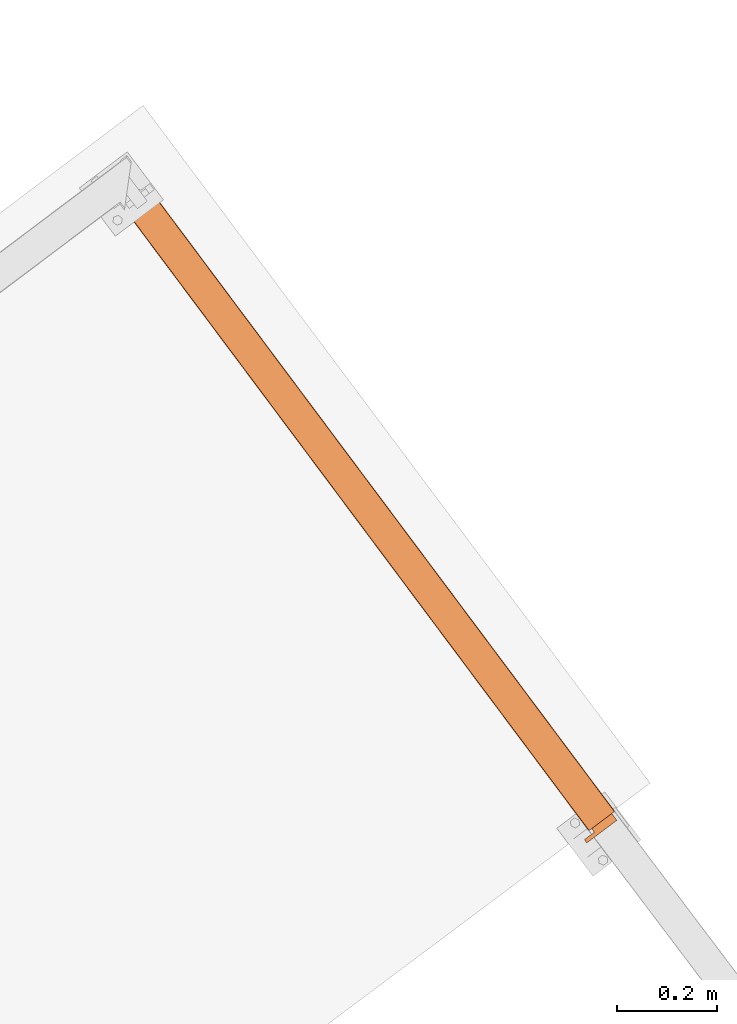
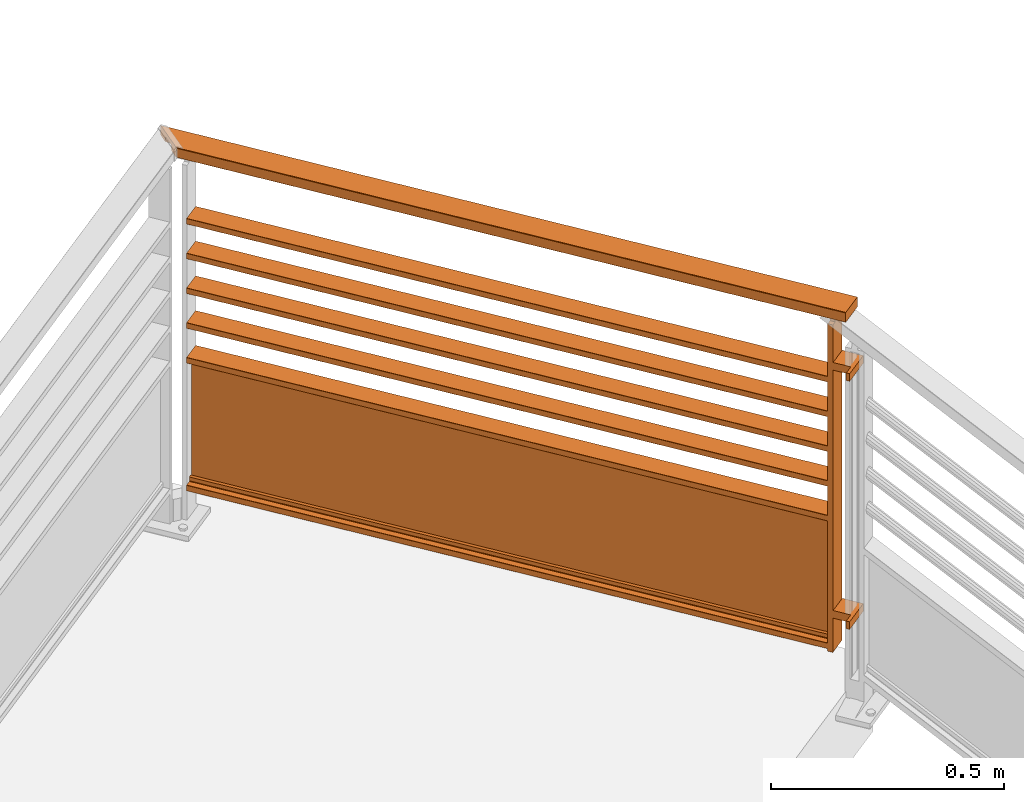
# One storey, part 120 of 121: 1 proxy.
"""IFC2X3 building model written with IfcOpenShell, lengths in metres."""

from ifc_helpers import new_model, entity, si_unit, converted_unit, derived_unit, money_unit, direction, frame, origin_with_axes, place, context, subcontext, project, spatial, faceted_brep, type_object, element, save


model = new_model("IFC2X3")

# Units and contexts
model_context = context("Model", 3, precision=1e-05, world=origin_with_axes(), true_north=direction((0.0, 1.0)))
body_context = subcontext(model_context, "Body", "Model", "MODEL_VIEW")
ifc_project = project(units=[si_unit("LENGTHUNIT", "METRE"), si_unit("AREAUNIT", "SQUARE_METRE"), si_unit("VOLUMEUNIT", "CUBIC_METRE"), converted_unit("PLANEANGLEUNIT", "DEGREE", entity("IfcPlaneAngleMeasure", 0.0174532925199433), si_unit("PLANEANGLEUNIT", "RADIAN"), dimensions=[0, 0, 0, 0, 0, 0, 0]), money_unit("CHF"), converted_unit("TIMEUNIT", "Year", entity("IfcTimeMeasure", 31557600.0), si_unit("TIMEUNIT", "SECOND"), dimensions=[0, 0, 1, 0, 0, 0, 0]), si_unit("MASSUNIT", "GRAM", prefix="KILO"), si_unit("THERMODYNAMICTEMPERATUREUNIT", "DEGREE_CELSIUS"), si_unit("LUMINOUSINTENSITYUNIT", "LUMEN"), si_unit("ENERGYUNIT", "JOULE", prefix="MEGA"), derived_unit("THERMALCONDUCTANCEUNIT", [(si_unit("POWERUNIT", "WATT"), 1), (si_unit("LENGTHUNIT", "METRE"), -1), (si_unit("THERMODYNAMICTEMPERATUREUNIT", "KELVIN"), -1)]), derived_unit("SPECIFICHEATCAPACITYUNIT", [(si_unit("ENERGYUNIT", "JOULE"), 1), (si_unit("MASSUNIT", "GRAM", prefix="KILO"), -1), (si_unit("THERMODYNAMICTEMPERATUREUNIT", "KELVIN"), -1)]), derived_unit("MASSDENSITYUNIT", [(si_unit("MASSUNIT", "GRAM", prefix="KILO"), 1), (si_unit("VOLUMEUNIT", "CUBIC_METRE"), -1)])], contexts=[model_context])

# Site, building, storey
site_placement = place(None, origin_with_axes())
site = spatial("IfcSite", under=ifc_project, at=site_placement, Name="Site", CompositionType="ELEMENT")
building_placement = place(site_placement, origin_with_axes())
building = spatial("IfcBuilding", under=site, at=building_placement, Name="Bâtiment", CompositionType="ELEMENT")
storey_placement = place(building_placement, frame((0.0, 0.0, 2.75), z_axis=(0.0, 0.0, 1.0), x_axis=(1.0, 0.0, 0.0)))
storey = spatial("IfcBuildingStorey", under=building, at=storey_placement, Name="Etage 1", CompositionType="ELEMENT", Elevation=2.75)

# Proxy
building_element_proxy_type = type_object("IfcBuildingElementProxyType", PredefinedType="NOTDEFINED")
proxy_placement = place(storey_placement, frame((9544.258487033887, -1073.205003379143, 57.7), z_axis=(0.0, 0.0, 1.0), x_axis=(0.5985049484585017, -0.8011191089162, 0.0)))
element("IfcBuildingElementProxy", 1, at=proxy_placement, inside=storey, type_object=building_element_proxy_type, Name="Obj.-003", context=body_context, shape_type="Brep", body=[
    faceted_brep([(-0.02000000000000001, -0.0635, 0.9731), (-0.02000000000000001, -0.0625, 0.9741), (-0.01700000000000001, -0.0625, 0.9741), (-0.01700000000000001, -0.0635, 0.9731), (-0.02, -0.1265, 0.9731), (-0.02, -0.1275, 0.9741), (-0.02000000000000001, -0.1275, 0.998105), (-0.02000000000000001, -0.126563, 0.999103), (-0.02000000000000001, -0.063437, 0.999103), (-0.02000000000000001, -0.0625, 0.998105), (-0.01700000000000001, -0.0625, 0.998105), (-0.01700000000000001, -0.063437, 0.999103), (-0.01700000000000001, -0.126563, 0.999103), (-0.01700000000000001, -0.1275, 0.998105), (-0.017, -0.1275, 0.9741), (-0.017, -0.1265, 0.9731)], [[[0, 1, 2, 3]], [[0, 4, 5, 6, 7, 8, 9, 1]], [[1, 9, 10, 2]], [[3, 2, 10, 11, 12, 13, 14, 15]], [[4, 0, 3, 15]], [[5, 4, 15, 14]], [[6, 5, 14, 13]], [[7, 6, 13, 12]], [[8, 7, 12, 11]], [[9, 8, 11, 10]]]),
    faceted_brep([(-0.02000000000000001, -0.0625, 0.998105), (-1.646753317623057, -0.0625000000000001, 0.9981049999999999), (-1.64581644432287, -0.06343687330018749, 0.9991030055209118), (-0.02000000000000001, -0.0634368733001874, 0.9991030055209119), (-0.02000000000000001, -0.0625, 0.9741), (-1.646753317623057, -0.0625000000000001, 0.9740999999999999), (-1.645753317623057, -0.0635000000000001, 0.9730999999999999), (-1.627253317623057, -0.0820000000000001, 0.9730999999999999), (-1.627253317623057, -0.0820000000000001, 0.9876999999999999), (-1.601253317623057, -0.1080000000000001, 0.9876999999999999), (-1.601253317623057, -0.1080000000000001, 0.9730999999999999), (-1.582753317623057, -0.1265000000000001, 0.9730999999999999), (-1.581753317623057, -0.1275000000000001, 0.9740999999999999), (-1.581753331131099, -0.1274999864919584, 0.9981051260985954), (-1.582690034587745, -0.1265632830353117, 0.9991029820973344), (-0.02000000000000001, -0.1265632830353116, 0.9991029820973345), (-0.02000000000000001, -0.1274999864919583, 0.9981051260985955), (-0.02, -0.1275, 0.9741), (-0.02, -0.1265, 0.9731), (-0.02000000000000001, -0.108, 0.9731), (-0.02000000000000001, -0.108, 0.9876999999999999), (-0.02000000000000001, -0.082, 0.9876999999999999), (-0.02000000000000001, -0.082, 0.9731), (-0.02000000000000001, -0.0635, 0.9731)], [[[0, 1, 2, 3]], [[4, 5, 1, 0]], [[1, 5, 6, 7, 8, 9, 10, 11, 12, 13, 14, 2]], [[3, 2, 14, 15]], [[0, 3, 15, 16, 17, 18, 19, 20, 21, 22, 23, 4]], [[23, 6, 5, 4]], [[22, 7, 6, 23]], [[21, 8, 7, 22]], [[20, 9, 8, 21]], [[19, 10, 9, 20]], [[18, 11, 10, 19]], [[17, 12, 11, 18]], [[16, 13, 12, 17]], [[15, 14, 13, 16]]]),
    faceted_brep([(-0.008000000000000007, -0.12, 0.184), (-0.008000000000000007, -0.12, 0.204), (-0.04950000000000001, -0.12, 0.204), (-0.04950000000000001, -0.12, 0.184), (-0.008000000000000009, -0.145, 0.184), (-0.008000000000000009, -0.145, 0.204), (0.0, -0.145, 0.204), (0.0, -0.07, 0.204), (-0.04950000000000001, -0.06999999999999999, 0.204), (-0.04950000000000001, -0.06999999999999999, 0.184), (0.0, -0.07, 0.184), (0.0, -0.145, 0.184)], [[[0, 1, 2, 3]], [[4, 5, 1, 0]], [[1, 5, 6, 7, 8, 2]], [[3, 2, 8, 9]], [[0, 3, 9, 10, 11, 4]], [[11, 6, 5, 4]], [[10, 7, 6, 11]], [[9, 8, 7, 10]]]),
    faceted_brep([(-0.008000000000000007, -0.12, 0.8346), (-0.008000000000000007, -0.12, 0.8546), (-0.04950000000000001, -0.12, 0.8546), (-0.04950000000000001, -0.12, 0.8346), (-0.008000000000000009, -0.145, 0.8346), (-0.008000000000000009, -0.145, 0.8546), (0.0, -0.145, 0.8546), (0.0, -0.07, 0.8546), (-0.04950000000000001, -0.06999999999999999, 0.8546), (-0.04950000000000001, -0.06999999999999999, 0.8346), (0.0, -0.07, 0.8346), (0.0, -0.145, 0.8346)], [[[0, 1, 2, 3]], [[4, 5, 1, 0]], [[1, 5, 6, 7, 8, 2]], [[3, 2, 8, 9]], [[0, 3, 9, 10, 11, 4]], [[11, 6, 5, 4]], [[10, 7, 6, 11]], [[9, 8, 7, 10]]]),
    faceted_brep([(-0.05620000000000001, -0.108, 0.094), (-0.05620000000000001, -0.108, 0.9446), (-0.06200000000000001, -0.108, 0.9446), (-0.06200000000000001, -0.108, 0.094), (-0.05620000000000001, -0.114, 0.094), (-0.05620000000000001, -0.114, 0.9446), (-0.06200000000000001, -0.114, 0.9446), (-0.06200000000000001, -0.12, 0.9446), (-0.05000000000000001, -0.12, 0.9446), (-0.05000000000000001, -0.07, 0.9446), (-0.06200000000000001, -0.07, 0.9446), (-0.06200000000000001, -0.076, 0.9446), (-0.05620000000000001, -0.076, 0.9446), (-0.05620000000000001, -0.082, 0.9446), (-0.06200000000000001, -0.082, 0.9446), (-0.06200000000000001, -0.082, 0.094), (-0.05620000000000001, -0.082, 0.094), (-0.05620000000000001, -0.076, 0.094), (-0.06200000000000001, -0.076, 0.094), (-0.06200000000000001, -0.07, 0.094), (-0.05000000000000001, -0.07, 0.094), (-0.05000000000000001, -0.12, 0.094), (-0.06200000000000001, -0.12, 0.094), (-0.06200000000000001, -0.114, 0.094)], [[[0, 1, 2, 3]], [[4, 5, 1, 0]], [[1, 5, 6, 7, 8, 9, 10, 11, 12, 13, 14, 2]], [[3, 2, 14, 15]], [[0, 3, 15, 16, 17, 18, 19, 20, 21, 22, 23, 4]], [[23, 6, 5, 4]], [[22, 7, 6, 23]], [[21, 8, 7, 22]], [[20, 9, 8, 21]], [[19, 10, 9, 20]], [[18, 11, 10, 19]], [[17, 12, 11, 18]], [[16, 13, 12, 17]], [[15, 14, 13, 16]]]),
    faceted_brep([(-0.06200000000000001, -0.12, 0.9529), (-0.05000000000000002, -0.12, 0.9529), (-0.05000000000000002, -0.1075, 0.9529), (-0.06200000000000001, -0.1075, 0.9529), (-0.06200000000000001, -0.12, 0.9446), (-0.05000000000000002, -0.12, 0.9446), (-0.05000000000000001, -0.07, 0.9446), (-0.05000000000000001, -0.07, 0.9529), (-0.05000000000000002, -0.0825, 0.9529), (-0.05000000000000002, -0.0825, 0.9806), (-0.05000000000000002, -0.1075, 0.9806), (-0.06200000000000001, -0.1075, 0.9806), (-0.06200000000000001, -0.0825, 0.9806), (-0.06200000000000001, -0.0825, 0.9529), (-0.06200000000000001, -0.07, 0.9529), (-0.06200000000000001, -0.07, 0.9446)], [[[0, 1, 2, 3]], [[4, 5, 1, 0]], [[1, 5, 6, 7, 8, 9, 10, 2]], [[3, 2, 10, 11]], [[0, 3, 11, 12, 13, 14, 15, 4]], [[15, 6, 5, 4]], [[14, 7, 6, 15]], [[13, 8, 7, 14]], [[12, 9, 8, 13]], [[11, 10, 9, 12]]]),
    faceted_brep([(-0.06200000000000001, -0.0994, 0.129207), (-0.06200000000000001, -0.0994, 0.110751), (-1.561471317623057, -0.0994000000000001, 0.1107510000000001), (-1.561471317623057, -0.0994000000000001, 0.1292070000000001), (-0.06200000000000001, -0.1036083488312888, 0.1266456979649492), (-0.06200000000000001, -0.1014, 0.126646), (-0.06200000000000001, -0.1014, 0.108251), (-0.06200000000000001, -0.0886, 0.108251), (-0.06200000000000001, -0.0886, 0.126646), (-0.06200000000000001, -0.086392, 0.126646), (-0.06200000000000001, -0.0906004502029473, 0.1292068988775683), (-0.06200000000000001, -0.0906, 0.110751), (-1.561471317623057, -0.0906000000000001, 0.1107510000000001), (-1.561471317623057, -0.09060045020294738, 0.1292068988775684), (-1.561471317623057, -0.0863920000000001, 0.1266460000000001), (-1.561471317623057, -0.0886000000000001, 0.1266460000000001), (-1.561471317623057, -0.0886000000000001, 0.1082510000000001), (-1.561471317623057, -0.1014000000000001, 0.1082510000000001), (-1.561471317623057, -0.1014000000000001, 0.1266460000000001), (-1.561471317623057, -0.1036083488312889, 0.1266456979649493)], [[[0, 1, 2, 3]], [[0, 4, 5, 6, 7, 8, 9, 10, 11, 1]], [[1, 11, 12, 2]], [[3, 2, 12, 13, 14, 15, 16, 17, 18, 19]], [[4, 0, 3, 19]], [[5, 4, 19, 18]], [[6, 5, 18, 17]], [[7, 6, 17, 16]], [[8, 7, 16, 15]], [[9, 8, 15, 14]], [[10, 9, 14, 13]], [[11, 10, 13, 12]]]),
    faceted_brep([(-0.06200000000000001, -0.0885, 0.1063), (-0.06200000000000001, -0.0885, 0.1263), (-1.561471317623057, -0.08850000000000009, 0.1263000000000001), (-1.561471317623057, -0.08850000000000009, 0.1063000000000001), (-0.06200000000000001, -0.1015, 0.1063), (-0.06200000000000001, -0.1015, 0.1263), (-0.06200000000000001, -0.103, 0.1263), (-0.06200000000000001, -0.1035, 0.1258), (-0.06200000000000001, -0.1035, 0.116), (-0.06200000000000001, -0.1045, 0.115), (-0.06200000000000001, -0.1195, 0.115), (-0.06200000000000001, -0.12, 0.1145), (-0.06200000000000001, -0.12, 0.1005), (-0.06200000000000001, -0.1195, 0.1), (-0.06200000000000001, -0.07050000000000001, 0.1), (-0.06200000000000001, -0.07, 0.1005), (-0.06200000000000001, -0.07, 0.1145), (-0.06200000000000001, -0.07050000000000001, 0.115), (-0.06200000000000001, -0.08549999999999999, 0.115), (-0.06200000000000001, -0.0865, 0.116), (-0.06200000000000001, -0.08650000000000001, 0.1258), (-0.06200000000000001, -0.08664644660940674, 0.1261535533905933), (-0.06200000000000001, -0.087, 0.1263), (-1.561471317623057, -0.08700000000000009, 0.1263000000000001), (-1.561471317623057, -0.08664644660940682, 0.1261535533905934), (-1.561471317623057, -0.08650000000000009, 0.1258000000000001), (-1.561471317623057, -0.08650000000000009, 0.1160000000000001), (-1.561471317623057, -0.08550000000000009, 0.1150000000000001), (-1.561471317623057, -0.07050000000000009, 0.1150000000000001), (-1.561471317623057, -0.07000000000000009, 0.1145000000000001), (-1.561471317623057, -0.07000000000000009, 0.1005000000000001), (-1.561471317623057, -0.07050000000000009, 0.1000000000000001), (-1.561471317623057, -0.1195000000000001, 0.1000000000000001), (-1.561471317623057, -0.1200000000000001, 0.1005000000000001), (-1.561471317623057, -0.1200000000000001, 0.1145000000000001), (-1.561471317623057, -0.1195000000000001, 0.1150000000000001), (-1.561471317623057, -0.1045000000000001, 0.1150000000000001), (-1.561471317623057, -0.1035000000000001, 0.1160000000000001), (-1.561471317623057, -0.1035000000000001, 0.1258000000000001), (-1.561471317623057, -0.1030000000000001, 0.1263000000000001), (-1.561471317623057, -0.1015000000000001, 0.1263000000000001), (-1.561471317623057, -0.1015000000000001, 0.1063000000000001)], [[[0, 1, 2, 3]], [[0, 4, 5, 6, 7, 8, 9, 10, 11, 12, 13, 14, 15, 16, 17, 18, 19, 20, 21, 22, 1]], [[1, 22, 23, 2]], [[3, 2, 23, 24, 25, 26, 27, 28, 29, 30, 31, 32, 33, 34, 35, 36, 37, 38, 39, 40, 41]], [[4, 0, 3, 41]], [[5, 4, 41, 40]], [[6, 5, 40, 39]], [[7, 6, 39, 38]], [[8, 7, 38, 37]], [[9, 8, 37, 36]], [[10, 9, 36, 35]], [[11, 10, 35, 34]], [[12, 11, 34, 33]], [[13, 12, 33, 32]], [[14, 13, 32, 31]], [[15, 14, 31, 30]], [[16, 15, 30, 29]], [[17, 16, 29, 28]], [[18, 17, 28, 27]], [[19, 18, 27, 26]], [[20, 19, 26, 25]], [[21, 20, 25, 24]], [[22, 21, 24, 23]]]),
    faceted_brep([(-0.06200000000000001, -0.0994, 0.420793), (-1.561471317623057, -0.0994000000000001, 0.4207929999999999), (-1.561471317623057, -0.0994000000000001, 0.4392489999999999), (-0.06200000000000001, -0.0994, 0.4392489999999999), (-0.06200000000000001, -0.1036083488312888, 0.4233543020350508), (-1.561471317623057, -0.1036083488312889, 0.4233543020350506), (-1.561471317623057, -0.1014000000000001, 0.4233539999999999), (-1.561471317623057, -0.1014000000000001, 0.4417489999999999), (-1.561471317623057, -0.0886000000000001, 0.4417489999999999), (-1.561471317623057, -0.0886000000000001, 0.4233539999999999), (-1.561471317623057, -0.0863920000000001, 0.4233539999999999), (-1.561471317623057, -0.09060045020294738, 0.4207931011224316), (-1.561471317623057, -0.0906000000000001, 0.4392489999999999), (-0.06200000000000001, -0.0906, 0.4392489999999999), (-0.06200000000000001, -0.0906004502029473, 0.4207931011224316), (-0.06200000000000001, -0.086392, 0.423354), (-0.06200000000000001, -0.0886, 0.423354), (-0.06200000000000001, -0.0886, 0.4417489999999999), (-0.06200000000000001, -0.1014, 0.4417489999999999), (-0.06200000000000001, -0.1014, 0.423354)], [[[0, 1, 2, 3]], [[4, 5, 1, 0]], [[1, 5, 6, 7, 8, 9, 10, 11, 12, 2]], [[3, 2, 12, 13]], [[0, 3, 13, 14, 15, 16, 17, 18, 19, 4]], [[19, 6, 5, 4]], [[18, 7, 6, 19]], [[17, 8, 7, 18]], [[16, 9, 8, 17]], [[15, 10, 9, 16]], [[14, 11, 10, 15]], [[13, 12, 11, 14]]]),
    faceted_brep([(-0.06200000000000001, -0.0885, 0.4437), (-1.561471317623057, -0.08850000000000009, 0.4436999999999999), (-1.561471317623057, -0.08850000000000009, 0.4236999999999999), (-0.06200000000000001, -0.0885, 0.4237), (-0.06200000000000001, -0.1015, 0.4437), (-1.561471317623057, -0.1015000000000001, 0.4436999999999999), (-1.561471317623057, -0.1015000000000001, 0.4236999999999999), (-1.561471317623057, -0.1030000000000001, 0.4236999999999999), (-1.561471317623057, -0.1035000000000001, 0.4241999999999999), (-1.561471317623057, -0.1035000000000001, 0.4339999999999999), (-1.561471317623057, -0.1045000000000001, 0.4349999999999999), (-1.561471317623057, -0.1195000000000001, 0.4349999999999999), (-1.561471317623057, -0.1200000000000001, 0.4354999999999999), (-1.561471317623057, -0.1200000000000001, 0.4494999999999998), (-1.561471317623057, -0.1195000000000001, 0.4499999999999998), (-1.561471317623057, -0.07050000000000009, 0.4499999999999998), (-1.561471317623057, -0.07000000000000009, 0.4494999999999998), (-1.561471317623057, -0.07000000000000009, 0.4354999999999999), (-1.561471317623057, -0.07050000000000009, 0.4349999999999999), (-1.561471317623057, -0.08550000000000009, 0.4349999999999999), (-1.561471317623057, -0.08650000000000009, 0.4339999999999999), (-1.561471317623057, -0.08650000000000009, 0.4241999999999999), (-1.561471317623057, -0.08664644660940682, 0.4238464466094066), (-1.561471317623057, -0.08700000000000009, 0.4236999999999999), (-0.06200000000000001, -0.087, 0.4237), (-0.06200000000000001, -0.08664644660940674, 0.4238464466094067), (-0.06200000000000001, -0.08650000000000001, 0.4242), (-0.06200000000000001, -0.0865, 0.4339999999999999), (-0.06200000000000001, -0.08549999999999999, 0.4349999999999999), (-0.06200000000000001, -0.07050000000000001, 0.4349999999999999), (-0.06200000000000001, -0.07, 0.4354999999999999), (-0.06200000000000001, -0.07, 0.4495), (-0.06200000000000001, -0.07050000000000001, 0.45), (-0.06200000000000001, -0.1195, 0.45), (-0.06200000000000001, -0.12, 0.4495), (-0.06200000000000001, -0.12, 0.4354999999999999), (-0.06200000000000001, -0.1195, 0.4349999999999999), (-0.06200000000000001, -0.1045, 0.4349999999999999), (-0.06200000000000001, -0.1035, 0.4339999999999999), (-0.06200000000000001, -0.1035, 0.4242), (-0.06200000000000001, -0.103, 0.4237), (-0.06200000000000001, -0.1015, 0.4237)], [[[0, 1, 2, 3]], [[4, 5, 1, 0]], [[1, 5, 6, 7, 8, 9, 10, 11, 12, 13, 14, 15, 16, 17, 18, 19, 20, 21, 22, 23, 2]], [[3, 2, 23, 24]], [[0, 3, 24, 25, 26, 27, 28, 29, 30, 31, 32, 33, 34, 35, 36, 37, 38, 39, 40, 41, 4]], [[41, 6, 5, 4]], [[40, 7, 6, 41]], [[39, 8, 7, 40]], [[38, 9, 8, 39]], [[37, 10, 9, 38]], [[36, 11, 10, 37]], [[35, 12, 11, 36]], [[34, 13, 12, 35]], [[33, 14, 13, 34]], [[32, 15, 14, 33]], [[31, 16, 15, 32]], [[30, 17, 16, 31]], [[29, 18, 17, 30]], [[28, 19, 18, 29]], [[27, 20, 19, 28]], [[26, 21, 20, 27]], [[25, 22, 21, 26]], [[24, 23, 22, 25]]]),
    faceted_brep([(-0.0645, -0.0994, 0.112), (-1.558971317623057, -0.0993999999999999, 0.112), (-1.558971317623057, -0.0905999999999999, 0.112), (-0.0645, -0.0906, 0.112), (-0.0645, -0.0994, 0.4379999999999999), (-1.558971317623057, -0.0993999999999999, 0.4379999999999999), (-1.558971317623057, -0.0905999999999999, 0.4379999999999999), (-0.0645, -0.0906, 0.4379999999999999)], [[[0, 1, 2, 3]], [[0, 4, 5, 1]], [[1, 5, 6, 2]], [[2, 6, 7, 3]], [[3, 7, 4, 0]], [[7, 6, 5, 4]]]),
    faceted_brep([(-0.06200000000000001, -0.07, 0.8001), (-1.561471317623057, -0.07000000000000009, 0.8000999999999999), (-1.561471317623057, -0.07000000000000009, 0.8140999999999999), (-0.06200000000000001, -0.07, 0.8141), (-0.06200000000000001, -0.07050000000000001, 0.7996), (-1.561471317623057, -0.07050000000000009, 0.7995999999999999), (-1.561471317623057, -0.1195000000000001, 0.7995999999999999), (-1.561471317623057, -0.1200000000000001, 0.8000999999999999), (-1.561471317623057, -0.1200000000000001, 0.8140999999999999), (-1.561471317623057, -0.1195000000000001, 0.8145999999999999), (-1.561471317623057, -0.07050000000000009, 0.8145999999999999), (-0.06200000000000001, -0.07050000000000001, 0.8146), (-0.06200000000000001, -0.1195, 0.8146), (-0.06200000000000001, -0.12, 0.8141), (-0.06200000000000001, -0.12, 0.8001), (-0.06200000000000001, -0.1195, 0.7996)], [[[0, 1, 2, 3]], [[4, 5, 1, 0]], [[1, 5, 6, 7, 8, 9, 10, 2]], [[3, 2, 10, 11]], [[0, 3, 11, 12, 13, 14, 15, 4]], [[15, 6, 5, 4]], [[14, 7, 6, 15]], [[13, 8, 7, 14]], [[12, 9, 8, 13]], [[11, 10, 9, 12]]]),
    faceted_brep([(-0.06200000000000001, -0.07, 0.70895), (-1.561471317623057, -0.07000000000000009, 0.7089499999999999), (-1.561471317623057, -0.07000000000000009, 0.7229499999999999), (-0.06200000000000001, -0.07, 0.72295), (-0.06200000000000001, -0.07050000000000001, 0.7084499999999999), (-1.561471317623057, -0.07050000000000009, 0.7084499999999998), (-1.561471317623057, -0.1195000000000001, 0.7084499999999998), (-1.561471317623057, -0.1200000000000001, 0.7089499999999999), (-1.561471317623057, -0.1200000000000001, 0.7229499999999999), (-1.561471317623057, -0.1195000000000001, 0.7234499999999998), (-1.561471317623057, -0.07050000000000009, 0.7234499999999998), (-0.06200000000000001, -0.07050000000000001, 0.7234499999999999), (-0.06200000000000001, -0.1195, 0.7234499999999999), (-0.06200000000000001, -0.12, 0.72295), (-0.06200000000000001, -0.12, 0.70895), (-0.06200000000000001, -0.1195, 0.7084499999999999)], [[[0, 1, 2, 3]], [[4, 5, 1, 0]], [[1, 5, 6, 7, 8, 9, 10, 2]], [[3, 2, 10, 11]], [[0, 3, 11, 12, 13, 14, 15, 4]], [[15, 6, 5, 4]], [[14, 7, 6, 15]], [[13, 8, 7, 14]], [[12, 9, 8, 13]], [[11, 10, 9, 12]]]),
    faceted_brep([(-0.06200000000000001, -0.07, 0.6177999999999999), (-1.561471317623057, -0.07000000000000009, 0.6177999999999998), (-1.561471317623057, -0.07000000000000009, 0.6317999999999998), (-0.06200000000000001, -0.07, 0.6317999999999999), (-0.06200000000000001, -0.07050000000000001, 0.6172999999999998), (-1.561471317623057, -0.07050000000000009, 0.6172999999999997), (-1.561471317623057, -0.1195000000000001, 0.6172999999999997), (-1.561471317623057, -0.1200000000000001, 0.6177999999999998), (-1.561471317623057, -0.1200000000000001, 0.6317999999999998), (-1.561471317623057, -0.1195000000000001, 0.6322999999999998), (-1.561471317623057, -0.07050000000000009, 0.6322999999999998), (-0.06200000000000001, -0.07050000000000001, 0.6322999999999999), (-0.06200000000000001, -0.1195, 0.6322999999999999), (-0.06200000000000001, -0.12, 0.6317999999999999), (-0.06200000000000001, -0.12, 0.6177999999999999), (-0.06200000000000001, -0.1195, 0.6172999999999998)], [[[0, 1, 2, 3]], [[4, 5, 1, 0]], [[1, 5, 6, 7, 8, 9, 10, 2]], [[3, 2, 10, 11]], [[0, 3, 11, 12, 13, 14, 15, 4]], [[15, 6, 5, 4]], [[14, 7, 6, 15]], [[13, 8, 7, 14]], [[12, 9, 8, 13]], [[11, 10, 9, 12]]]),
    faceted_brep([(-0.06200000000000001, -0.07, 0.5266500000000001), (-1.561471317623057, -0.07000000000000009, 0.52665), (-1.561471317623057, -0.07000000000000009, 0.54065), (-0.06200000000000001, -0.07, 0.5406500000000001), (-0.06200000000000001, -0.07050000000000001, 0.52615), (-1.561471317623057, -0.07050000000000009, 0.5261499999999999), (-1.561471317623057, -0.1195000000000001, 0.5261499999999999), (-1.561471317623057, -0.1200000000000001, 0.52665), (-1.561471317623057, -0.1200000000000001, 0.54065), (-1.561471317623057, -0.1195000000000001, 0.5411499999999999), (-1.561471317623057, -0.07050000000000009, 0.5411499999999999), (-0.06200000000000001, -0.07050000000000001, 0.54115), (-0.06200000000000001, -0.1195, 0.54115), (-0.06200000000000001, -0.12, 0.5406500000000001), (-0.06200000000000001, -0.12, 0.5266500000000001), (-0.06200000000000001, -0.1195, 0.52615)], [[[0, 1, 2, 3]], [[4, 5, 1, 0]], [[1, 5, 6, 7, 8, 9, 10, 2]], [[3, 2, 10, 11]], [[0, 3, 11, 12, 13, 14, 15, 4]], [[15, 6, 5, 4]], [[14, 7, 6, 15]], [[13, 8, 7, 14]], [[12, 9, 8, 13]], [[11, 10, 9, 12]]]),
])

save(model, "model.ifc")
